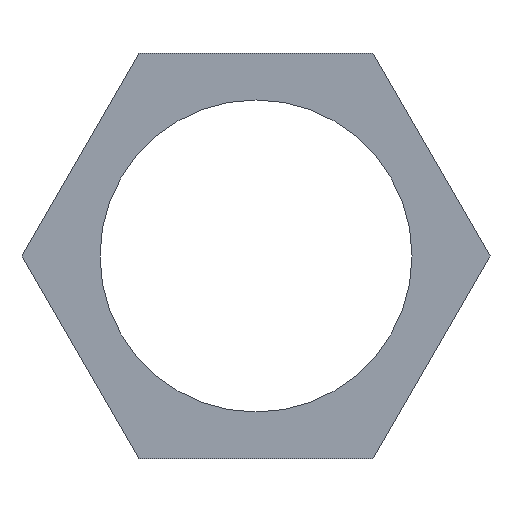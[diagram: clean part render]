
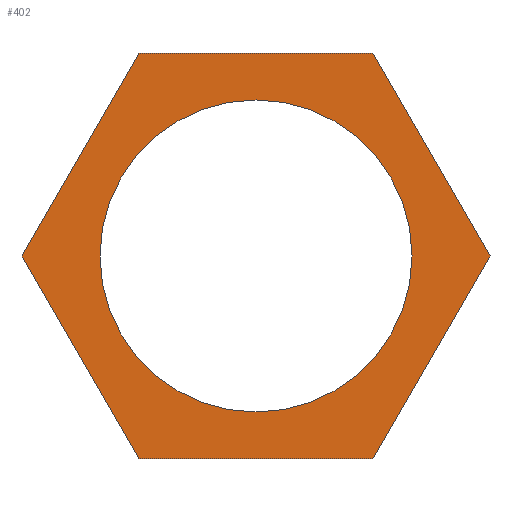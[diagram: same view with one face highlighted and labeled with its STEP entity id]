
A CAD part, front view. The second image highlights one B-rep face of the part: STEP entity #402.
In plain terms, the highlighted planar face has unit normal (0, -1, 0).
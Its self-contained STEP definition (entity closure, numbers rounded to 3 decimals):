
#24 = VERTEX_POINT('',#25);
#25 = CARTESIAN_POINT('',(170.477,29.,361.469));
#32 = PLANE('',#33);
#33 = AXIS2_PLACEMENT_3D('',#34,#35,#36);
#34 = CARTESIAN_POINT('',(170.477,36.,361.469));
#35 = DIRECTION('',(-0.866,-0.,-0.5));
#36 = DIRECTION('',(-0.5,0.,0.866));
#44 = PLANE('',#45);
#45 = AXIS2_PLACEMENT_3D('',#46,#47,#48);
#46 = CARTESIAN_POINT('',(164.477,36.,351.076));
#47 = DIRECTION('',(-0.866,0.,0.5));
#48 = DIRECTION('',(0.5,0.,0.866));
#56 = EDGE_CURVE('',#24,#57,#59,.T.);
#57 = VERTEX_POINT('',#58);
#58 = CARTESIAN_POINT('',(164.477,29.,371.861));
#59 = SURFACE_CURVE('',#60,(#64,#71),.PCURVE_S1.);
#60 = LINE('',#61,#62);
#61 = CARTESIAN_POINT('',(170.477,29.,361.469));
#62 = VECTOR('',#63,1.);
#63 = DIRECTION('',(-0.5,0.,0.866));
#64 = PCURVE('',#32,#65);
#65 = DEFINITIONAL_REPRESENTATION('',(#66),#70);
#66 = LINE('',#67,#68);
#67 = CARTESIAN_POINT('',(0.,-7.));
#68 = VECTOR('',#69,1.);
#69 = DIRECTION('',(1.,0.));
#70 = ( GEOMETRIC_REPRESENTATION_CONTEXT(2) 
PARAMETRIC_REPRESENTATION_CONTEXT() REPRESENTATION_CONTEXT('2D SPACE',''
  ) );
#71 = PCURVE('',#72,#77);
#72 = PLANE('',#73);
#73 = AXIS2_PLACEMENT_3D('',#74,#75,#76);
#74 = CARTESIAN_POINT('',(158.477,29.,361.469));
#75 = DIRECTION('',(-0.,-1.,-0.));
#76 = DIRECTION('',(0.,0.,-1.));
#77 = DEFINITIONAL_REPRESENTATION('',(#78),#82);
#78 = LINE('',#79,#80);
#79 = CARTESIAN_POINT('',(0.,12.));
#80 = VECTOR('',#81,1.);
#81 = DIRECTION('',(-0.866,-0.5));
#82 = ( GEOMETRIC_REPRESENTATION_CONTEXT(2) 
PARAMETRIC_REPRESENTATION_CONTEXT() REPRESENTATION_CONTEXT('2D SPACE',''
  ) );
#100 = PLANE('',#101);
#101 = AXIS2_PLACEMENT_3D('',#102,#103,#104);
#102 = CARTESIAN_POINT('',(164.477,36.,371.861));
#103 = DIRECTION('',(-0.,-0.,-1.));
#104 = DIRECTION('',(-1.,0.,0.));
#144 = VERTEX_POINT('',#145);
#145 = CARTESIAN_POINT('',(164.477,29.,351.076));
#159 = PLANE('',#160);
#160 = AXIS2_PLACEMENT_3D('',#161,#162,#163);
#161 = CARTESIAN_POINT('',(152.477,36.,351.076));
#162 = DIRECTION('',(0.,0.,1.));
#163 = DIRECTION('',(1.,0.,0.));
#171 = EDGE_CURVE('',#144,#24,#172,.T.);
#172 = SURFACE_CURVE('',#173,(#177,#184),.PCURVE_S1.);
#173 = LINE('',#174,#175);
#174 = CARTESIAN_POINT('',(164.477,29.,351.076));
#175 = VECTOR('',#176,1.);
#176 = DIRECTION('',(0.5,0.,0.866));
#177 = PCURVE('',#44,#178);
#178 = DEFINITIONAL_REPRESENTATION('',(#179),#183);
#179 = LINE('',#180,#181);
#180 = CARTESIAN_POINT('',(0.,-7.));
#181 = VECTOR('',#182,1.);
#182 = DIRECTION('',(1.,0.));
#183 = ( GEOMETRIC_REPRESENTATION_CONTEXT(2) 
PARAMETRIC_REPRESENTATION_CONTEXT() REPRESENTATION_CONTEXT('2D SPACE',''
  ) );
#184 = PCURVE('',#72,#185);
#185 = DEFINITIONAL_REPRESENTATION('',(#186),#190);
#186 = LINE('',#187,#188);
#187 = CARTESIAN_POINT('',(10.392,6.));
#188 = VECTOR('',#189,1.);
#189 = DIRECTION('',(-0.866,0.5));
#190 = ( GEOMETRIC_REPRESENTATION_CONTEXT(2) 
PARAMETRIC_REPRESENTATION_CONTEXT() REPRESENTATION_CONTEXT('2D SPACE',''
  ) );
#218 = EDGE_CURVE('',#57,#219,#221,.T.);
#219 = VERTEX_POINT('',#220);
#220 = CARTESIAN_POINT('',(152.477,29.,371.861));
#221 = SURFACE_CURVE('',#222,(#226,#233),.PCURVE_S1.);
#222 = LINE('',#223,#224);
#223 = CARTESIAN_POINT('',(164.477,29.,371.861));
#224 = VECTOR('',#225,1.);
#225 = DIRECTION('',(-1.,0.,0.));
#226 = PCURVE('',#100,#227);
#227 = DEFINITIONAL_REPRESENTATION('',(#228),#232);
#228 = LINE('',#229,#230);
#229 = CARTESIAN_POINT('',(0.,-7.));
#230 = VECTOR('',#231,1.);
#231 = DIRECTION('',(1.,0.));
#232 = ( GEOMETRIC_REPRESENTATION_CONTEXT(2) 
PARAMETRIC_REPRESENTATION_CONTEXT() REPRESENTATION_CONTEXT('2D SPACE',''
  ) );
#233 = PCURVE('',#72,#234);
#234 = DEFINITIONAL_REPRESENTATION('',(#235),#239);
#235 = LINE('',#236,#237);
#236 = CARTESIAN_POINT('',(-10.392,6.));
#237 = VECTOR('',#238,1.);
#238 = DIRECTION('',(0.,-1.));
#239 = ( GEOMETRIC_REPRESENTATION_CONTEXT(2) 
PARAMETRIC_REPRESENTATION_CONTEXT() REPRESENTATION_CONTEXT('2D SPACE',''
  ) );
#257 = PLANE('',#258);
#258 = AXIS2_PLACEMENT_3D('',#259,#260,#261);
#259 = CARTESIAN_POINT('',(152.477,36.,371.861));
#260 = DIRECTION('',(0.866,0.,-0.5));
#261 = DIRECTION('',(-0.5,-0.,-0.866));
#334 = PLANE('',#335);
#335 = AXIS2_PLACEMENT_3D('',#336,#337,#338);
#336 = CARTESIAN_POINT('',(146.477,36.,361.469));
#337 = DIRECTION('',(0.866,0.,0.5));
#338 = DIRECTION('',(0.5,0.,-0.866));
#391 = CYLINDRICAL_SURFACE('',#392,8.);
#392 = AXIS2_PLACEMENT_3D('',#393,#394,#395);
#393 = CARTESIAN_POINT('',(158.477,28.,361.469));
#394 = DIRECTION('',(0.,1.,0.));
#395 = DIRECTION('',(0.,-0.,1.));
#402 = ADVANCED_FACE('',(#403,#475),#72,.T.);
#403 = FACE_BOUND('',#404,.T.);
#404 = EDGE_LOOP('',(#405,#406,#407,#430,#453,#474));
#405 = ORIENTED_EDGE('',*,*,#56,.T.);
#406 = ORIENTED_EDGE('',*,*,#218,.T.);
#407 = ORIENTED_EDGE('',*,*,#408,.T.);
#408 = EDGE_CURVE('',#219,#409,#411,.T.);
#409 = VERTEX_POINT('',#410);
#410 = CARTESIAN_POINT('',(146.477,29.,361.469));
#411 = SURFACE_CURVE('',#412,(#416,#423),.PCURVE_S1.);
#412 = LINE('',#413,#414);
#413 = CARTESIAN_POINT('',(152.477,29.,371.861));
#414 = VECTOR('',#415,1.);
#415 = DIRECTION('',(-0.5,-0.,-0.866));
#416 = PCURVE('',#72,#417);
#417 = DEFINITIONAL_REPRESENTATION('',(#418),#422);
#418 = LINE('',#419,#420);
#419 = CARTESIAN_POINT('',(-10.392,-6.));
#420 = VECTOR('',#421,1.);
#421 = DIRECTION('',(0.866,-0.5));
#422 = ( GEOMETRIC_REPRESENTATION_CONTEXT(2) 
PARAMETRIC_REPRESENTATION_CONTEXT() REPRESENTATION_CONTEXT('2D SPACE',''
  ) );
#423 = PCURVE('',#257,#424);
#424 = DEFINITIONAL_REPRESENTATION('',(#425),#429);
#425 = LINE('',#426,#427);
#426 = CARTESIAN_POINT('',(0.,-7.));
#427 = VECTOR('',#428,1.);
#428 = DIRECTION('',(1.,0.));
#429 = ( GEOMETRIC_REPRESENTATION_CONTEXT(2) 
PARAMETRIC_REPRESENTATION_CONTEXT() REPRESENTATION_CONTEXT('2D SPACE',''
  ) );
#430 = ORIENTED_EDGE('',*,*,#431,.T.);
#431 = EDGE_CURVE('',#409,#432,#434,.T.);
#432 = VERTEX_POINT('',#433);
#433 = CARTESIAN_POINT('',(152.477,29.,351.076));
#434 = SURFACE_CURVE('',#435,(#439,#446),.PCURVE_S1.);
#435 = LINE('',#436,#437);
#436 = CARTESIAN_POINT('',(146.477,29.,361.469));
#437 = VECTOR('',#438,1.);
#438 = DIRECTION('',(0.5,0.,-0.866));
#439 = PCURVE('',#72,#440);
#440 = DEFINITIONAL_REPRESENTATION('',(#441),#445);
#441 = LINE('',#442,#443);
#442 = CARTESIAN_POINT('',(0.,-12.));
#443 = VECTOR('',#444,1.);
#444 = DIRECTION('',(0.866,0.5));
#445 = ( GEOMETRIC_REPRESENTATION_CONTEXT(2) 
PARAMETRIC_REPRESENTATION_CONTEXT() REPRESENTATION_CONTEXT('2D SPACE',''
  ) );
#446 = PCURVE('',#334,#447);
#447 = DEFINITIONAL_REPRESENTATION('',(#448),#452);
#448 = LINE('',#449,#450);
#449 = CARTESIAN_POINT('',(0.,-7.));
#450 = VECTOR('',#451,1.);
#451 = DIRECTION('',(1.,0.));
#452 = ( GEOMETRIC_REPRESENTATION_CONTEXT(2) 
PARAMETRIC_REPRESENTATION_CONTEXT() REPRESENTATION_CONTEXT('2D SPACE',''
  ) );
#453 = ORIENTED_EDGE('',*,*,#454,.T.);
#454 = EDGE_CURVE('',#432,#144,#455,.T.);
#455 = SURFACE_CURVE('',#456,(#460,#467),.PCURVE_S1.);
#456 = LINE('',#457,#458);
#457 = CARTESIAN_POINT('',(152.477,29.,351.076));
#458 = VECTOR('',#459,1.);
#459 = DIRECTION('',(1.,0.,0.));
#460 = PCURVE('',#72,#461);
#461 = DEFINITIONAL_REPRESENTATION('',(#462),#466);
#462 = LINE('',#463,#464);
#463 = CARTESIAN_POINT('',(10.392,-6.));
#464 = VECTOR('',#465,1.);
#465 = DIRECTION('',(0.,1.));
#466 = ( GEOMETRIC_REPRESENTATION_CONTEXT(2) 
PARAMETRIC_REPRESENTATION_CONTEXT() REPRESENTATION_CONTEXT('2D SPACE',''
  ) );
#467 = PCURVE('',#159,#468);
#468 = DEFINITIONAL_REPRESENTATION('',(#469),#473);
#469 = LINE('',#470,#471);
#470 = CARTESIAN_POINT('',(0.,-7.));
#471 = VECTOR('',#472,1.);
#472 = DIRECTION('',(1.,0.));
#473 = ( GEOMETRIC_REPRESENTATION_CONTEXT(2) 
PARAMETRIC_REPRESENTATION_CONTEXT() REPRESENTATION_CONTEXT('2D SPACE',''
  ) );
#474 = ORIENTED_EDGE('',*,*,#171,.T.);
#475 = FACE_BOUND('',#476,.T.);
#476 = EDGE_LOOP('',(#477));
#477 = ORIENTED_EDGE('',*,*,#478,.T.);
#478 = EDGE_CURVE('',#479,#479,#481,.T.);
#479 = VERTEX_POINT('',#480);
#480 = CARTESIAN_POINT('',(158.477,29.,369.469));
#481 = SURFACE_CURVE('',#482,(#487,#498),.PCURVE_S1.);
#482 = CIRCLE('',#483,8.);
#483 = AXIS2_PLACEMENT_3D('',#484,#485,#486);
#484 = CARTESIAN_POINT('',(158.477,29.,361.469));
#485 = DIRECTION('',(0.,1.,0.));
#486 = DIRECTION('',(0.,-0.,1.));
#487 = PCURVE('',#72,#488);
#488 = DEFINITIONAL_REPRESENTATION('',(#489),#497);
#489 = ( BOUNDED_CURVE() B_SPLINE_CURVE(2,(#490,#491,#492,#493,#494,#495
,#496),.UNSPECIFIED.,.T.,.F.) B_SPLINE_CURVE_WITH_KNOTS((1,2,2,2,2,1),(
    -2.094,0.,2.094,4.189,6.283,
8.378),.UNSPECIFIED.) CURVE() GEOMETRIC_REPRESENTATION_ITEM() 
RATIONAL_B_SPLINE_CURVE((1.,0.5,1.,0.5,1.,0.5,1.)) REPRESENTATION_ITEM(
  '') );
#490 = CARTESIAN_POINT('',(-8.,0.));
#491 = CARTESIAN_POINT('',(-8.,13.856));
#492 = CARTESIAN_POINT('',(4.,6.928));
#493 = CARTESIAN_POINT('',(16.,0.));
#494 = CARTESIAN_POINT('',(4.,-6.928));
#495 = CARTESIAN_POINT('',(-8.,-13.856));
#496 = CARTESIAN_POINT('',(-8.,0.));
#497 = ( GEOMETRIC_REPRESENTATION_CONTEXT(2) 
PARAMETRIC_REPRESENTATION_CONTEXT() REPRESENTATION_CONTEXT('2D SPACE',''
  ) );
#498 = PCURVE('',#391,#499);
#499 = DEFINITIONAL_REPRESENTATION('',(#500),#504);
#500 = LINE('',#501,#502);
#501 = CARTESIAN_POINT('',(0.,1.));
#502 = VECTOR('',#503,1.);
#503 = DIRECTION('',(1.,0.));
#504 = ( GEOMETRIC_REPRESENTATION_CONTEXT(2) 
PARAMETRIC_REPRESENTATION_CONTEXT() REPRESENTATION_CONTEXT('2D SPACE',''
  ) );
